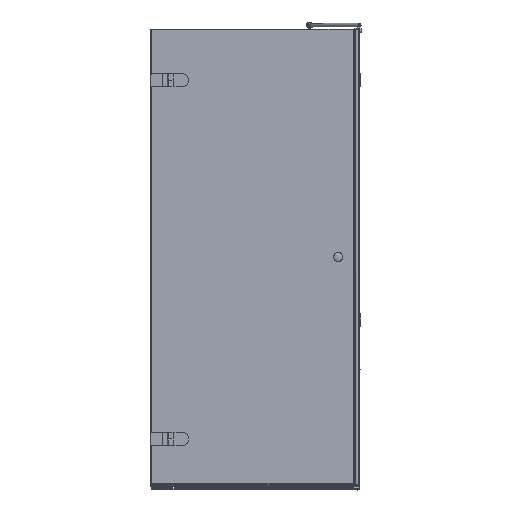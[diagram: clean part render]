
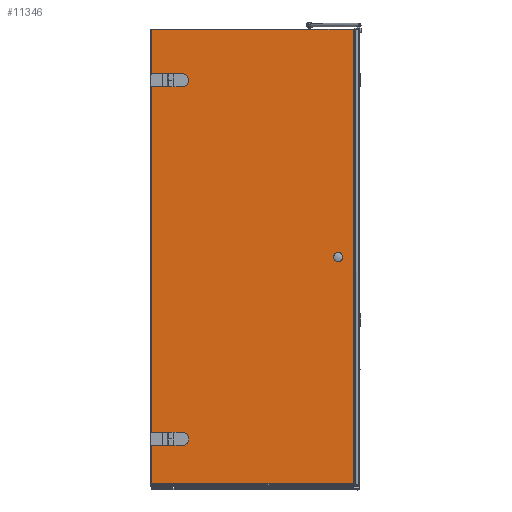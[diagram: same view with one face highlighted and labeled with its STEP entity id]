
A CAD part, front view. The second image highlights one B-rep face of the part: STEP entity #11346.
In plain terms, the highlighted planar face has unit normal (0, -1, 0).
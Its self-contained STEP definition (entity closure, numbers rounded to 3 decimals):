
#129=LINE($,#15584,#1261);
#132=LINE($,#15590,#1264);
#136=LINE($,#15600,#1268);
#179=LINE($,#15712,#1311);
#182=LINE($,#15718,#1314);
#186=LINE($,#15728,#1318);
#452=LINE($,#16908,#1584);
#493=LINE($,#17063,#1625);
#980=LINE($,#18796,#2112);
#1004=LINE($,#18872,#2136);
#1261=VECTOR($,#12546,52.);
#1264=VECTOR($,#12551,23.);
#1268=VECTOR($,#12563,23.);
#1311=VECTOR($,#12670,52.);
#1314=VECTOR($,#12675,23.);
#1318=VECTOR($,#12687,23.);
#1584=VECTOR($,#13467,1875.4);
#1625=VECTOR($,#13586,835.2);
#2112=VECTOR($,#14857,1875.4);
#2136=VECTOR($,#14939,835.2);
#2453=FACE_BOUND($,#3709,.T.);
#2454=FACE_BOUND($,#3710,.T.);
#2455=FACE_BOUND($,#3711,.T.);
#3709=EDGE_LOOP($,(#9106,#9107,#9108,#9109));
#3710=EDGE_LOOP($,(#9110,#9111,#9112,#9113));
#3711=EDGE_LOOP($,(#9114,#9115,#9116,#9117));
#3874=CIRCLE($,#11537,26.);
#3886=CIRCLE($,#11574,26.);
#4227=VERTEX_POINT($,#15581);
#4228=VERTEX_POINT($,#15583);
#4230=VERTEX_POINT($,#15589);
#4232=VERTEX_POINT($,#15595);
#4268=VERTEX_POINT($,#15709);
#4269=VERTEX_POINT($,#15711);
#4271=VERTEX_POINT($,#15717);
#4273=VERTEX_POINT($,#15723);
#4577=VERTEX_POINT($,#16905);
#4578=VERTEX_POINT($,#16907);
#4617=VERTEX_POINT($,#17062);
#5075=VERTEX_POINT($,#18793);
#5244=EDGE_CURVE($,#4228,#4227,#129,.T.);
#5247=EDGE_CURVE($,#4230,#4228,#132,.T.);
#5250=EDGE_CURVE($,#4232,#4230,#3874,.T.);
#5253=EDGE_CURVE($,#4227,#4232,#136,.T.);
#5306=EDGE_CURVE($,#4269,#4268,#179,.T.);
#5309=EDGE_CURVE($,#4271,#4269,#182,.T.);
#5312=EDGE_CURVE($,#4273,#4271,#3886,.T.);
#5315=EDGE_CURVE($,#4268,#4273,#186,.T.);
#5721=EDGE_CURVE($,#4578,#4577,#452,.T.);
#5784=EDGE_CURVE($,#4578,#4617,#493,.T.);
#6477=EDGE_CURVE($,#5075,#4617,#980,.T.);
#6510=EDGE_CURVE($,#4577,#5075,#1004,.T.);
#9106=ORIENTED_EDGE($,*,*,#5244,.T.);
#9107=ORIENTED_EDGE($,*,*,#5253,.T.);
#9108=ORIENTED_EDGE($,*,*,#5250,.T.);
#9109=ORIENTED_EDGE($,*,*,#5247,.T.);
#9110=ORIENTED_EDGE($,*,*,#5306,.T.);
#9111=ORIENTED_EDGE($,*,*,#5315,.T.);
#9112=ORIENTED_EDGE($,*,*,#5312,.T.);
#9113=ORIENTED_EDGE($,*,*,#5309,.T.);
#9114=ORIENTED_EDGE($,*,*,#5721,.T.);
#9115=ORIENTED_EDGE($,*,*,#6510,.T.);
#9116=ORIENTED_EDGE($,*,*,#6477,.T.);
#9117=ORIENTED_EDGE($,*,*,#5784,.F.);
#10172=PLANE($,#12292);
#11346=ADVANCED_FACE($,(#2453,#2454,#2455),#10172,.T.);
#11537=AXIS2_PLACEMENT_3D($,#15596,#12557,#12558);
#11574=AXIS2_PLACEMENT_3D($,#15724,#12681,#12682);
#12292=AXIS2_PLACEMENT_3D($,#18871,#14937,#14938);
#12546=DIRECTION($,(0.,0.,1.));
#12551=DIRECTION($,(-1.,0.,0.));
#12557=DIRECTION('center_axis',(0.,1.,0.));
#12558=DIRECTION('ref_axis',(0.,0.,
1.));
#12563=DIRECTION($,(1.,0.,0.));
#12670=DIRECTION($,(0.,0.,1.));
#12675=DIRECTION($,(-1.,0.,0.));
#12681=DIRECTION('center_axis',(0.,1.,0.));
#12682=DIRECTION('ref_axis',(0.,0.,
1.));
#12687=DIRECTION($,(1.,0.,0.));
#13467=DIRECTION($,(0.,0.,-1.));
#13586=DIRECTION($,(1.,0.,0.));
#14857=DIRECTION($,(0.,0.,1.));
#14937=DIRECTION('center_axis',(0.,-1.,0.));
#14938=DIRECTION('ref_axis',(1.,0.,0.));
#14939=DIRECTION($,(1.,0.,0.));
#15581=CARTESIAN_POINT('',(452.376,-44.044,-278.056));
#15583=CARTESIAN_POINT('',(452.376,-44.044,-330.056));
#15584=CARTESIAN_POINT($,(452.376,-44.044,-412.056));
#15589=CARTESIAN_POINT('',(475.376,-44.044,-330.056));
#15590=CARTESIAN_POINT($,(409.876,-44.044,-330.056));
#15595=CARTESIAN_POINT('',(475.376,-44.044,-278.056));
#15596=CARTESIAN_POINT('Origin',(475.376,-44.044,-304.056));
#15600=CARTESIAN_POINT($,(398.376,-44.044,-278.056));
#15709=CARTESIAN_POINT('',(452.376,-44.044,1201.944));
#15711=CARTESIAN_POINT('',(452.376,-44.044,1149.944));
#15712=CARTESIAN_POINT($,(452.376,-44.044,327.944));
#15717=CARTESIAN_POINT('',(475.376,-44.044,1149.944));
#15718=CARTESIAN_POINT($,(409.876,-44.044,1149.944));
#15723=CARTESIAN_POINT('',(475.376,-44.044,1201.944));
#15724=CARTESIAN_POINT('Origin',(475.376,-44.044,1175.944));
#15728=CARTESIAN_POINT($,(398.376,-44.044,1201.944));
#16905=CARTESIAN_POINT('',(349.076,-44.044,-489.456));
#16907=CARTESIAN_POINT('',(349.076,-44.044,1385.944));
#16908=CARTESIAN_POINT($,(349.076,-44.044,445.944));
#17062=CARTESIAN_POINT('',(1184.276,-44.044,1385.944));
#17063=CARTESIAN_POINT($,(344.376,-44.044,1385.944));
#18793=CARTESIAN_POINT('',(1184.276,-44.044,-489.456));
#18796=CARTESIAN_POINT($,(1184.276,-44.044,-494.056));
#18871=CARTESIAN_POINT('Origin',(344.376,-44.044,-494.056));
#18872=CARTESIAN_POINT($,(344.376,-44.044,-489.456));
